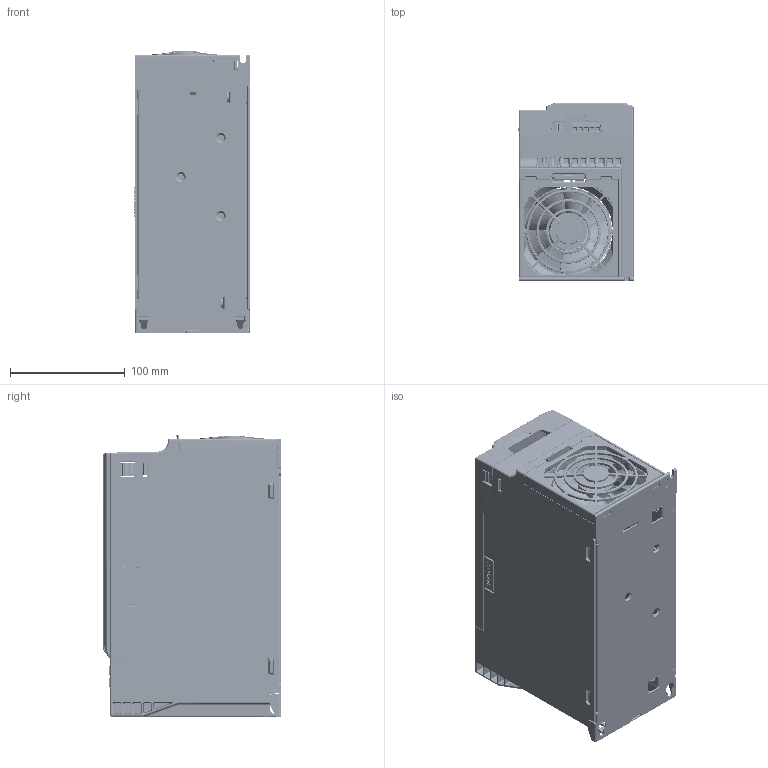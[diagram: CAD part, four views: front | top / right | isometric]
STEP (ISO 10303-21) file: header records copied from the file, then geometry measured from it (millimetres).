
FILE_DESCRIPTION(/* description */ (''),/* implementation_level */ '2;1');
FILE_NAME(/* name */ 'C:\Users\U390257\OneDrive - Danfoss\Documents\Работа\Текущие задачи\2022.04.26 Veichi 3D\Готовые модели\ac300-t3-004_5r5_3d\ac300-t3-004_5r5_3d.stp',/* time_stamp */ '2022-04-27T12:10:07+03:00',/* author */ ('U390257'),/* organization */ (''),/* preprocessor_version */ 'ST-DEVELOPER v18.1',/* originating_system */ 'Autodesk Inventor 2020',/* authorisation */ '');
FILE_SCHEMA (('AUTOMOTIVE_DESIGN { 1 0 10303 214 3 1 1 }'));
Products named in the file (10): ac300-t3-004_5r5_3d; ac300-t3-004_5r5_3d_1; VEDAVFD; display; display_1; knopka_prg; knopka_ust_pusk; knopka_ust_stop; knopka_ust_vybor; knopka_up
Assembly tree (10 placements, depth 3):
  ac300-t3-004_5r5_3d
    ac300-t3-004_5r5_3d_1
    VEDAVFD
    display
      display_1
      knopka_prg
      knopka_up  x2
      knopka_ust_pusk
      knopka_ust_stop
      knopka_ust_vybor
Bounding box: 100.3 x 155.3 x 245 mm (x, y, z)
Volume: 537739.5 mm3; surface area: 521365.4 mm2
Topology: 96 solids, 97 shells, 13641 faces, 36183 edges, 23412 vertices
Faces by surface type: plane 8297, bspline 3224, cylinder 1748, cone 192, torus 129, sphere 51
Full cylindrical faces by diameter (mm): 0.1 x4, 0.2 x30, 0.5 x22, 0.762 x8, 0.9 x8, 1 x2, 1.5 x12, 1.6 x2, 2.1 x1, 2.5 x3, 2.6 x4, 3 x8, 3.6 x3, 3.8 x20, 4 x3, 4.2 x8, 4.6 x1, 5 x12, 5.38 x3, 5.4 x2, 5.9 x3, 6.2 x10, 6.35 x3, 6.9 x1, 7 x1, 7.9 x3, 8 x2, 9 x1, 30 x1, 32 x1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
Entity records: 494132 total; most frequent: CARTESIAN_POINT 167951, ORIENTED_EDGE 72006, DIRECTION 59745, EDGE_CURVE 36005, LINE 24933, VECTOR 24933, VERTEX_POINT 23186, AXIS2_PLACEMENT_3D 17406
